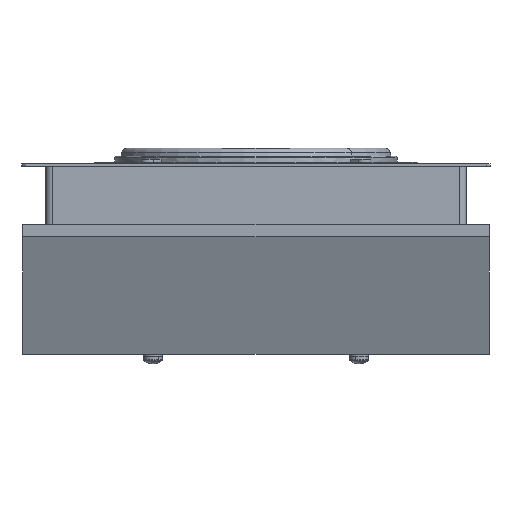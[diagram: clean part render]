
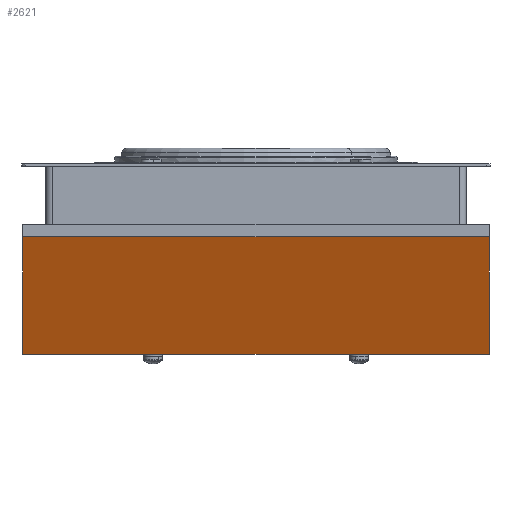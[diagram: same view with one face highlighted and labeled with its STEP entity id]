
A CAD part, front view. The second image highlights one B-rep face of the part: STEP entity #2621.
In plain terms, the highlighted planar face has unit normal (0, -0.92, -0.391) as drawn and (-0.921, 0, -0.391) by its records, which use the part's own axes.
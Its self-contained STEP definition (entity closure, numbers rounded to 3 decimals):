
#122 = FACE_OUTER_BOUND ( 'NONE', #3050, .T. ) ;
#455 = DIRECTION ( 'NONE',  ( 0.921, 0., 0.391 ) ) ;
#610 = CARTESIAN_POINT ( 'NONE',  ( -187.5, -147., -8. ) ) ;
#670 = VECTOR ( 'NONE', #1856, 1000. ) ;
#759 = VERTEX_POINT ( 'NONE', #1437 ) ;
#1019 = CARTESIAN_POINT ( 'NONE',  ( -156.089, 147., -82. ) ) ;
#1056 = VERTEX_POINT ( 'NONE', #1700 ) ;
#1061 = ORIENTED_EDGE ( 'NONE', *, *, #1921, .F. ) ;
#1333 = DIRECTION ( 'NONE',  ( 0., -1., 0. ) ) ;
#1367 = PLANE ( 'NONE',  #3970 ) ;
#1437 = CARTESIAN_POINT ( 'NONE',  ( -156.089, -147., -82. ) ) ;
#1571 = CARTESIAN_POINT ( 'NONE',  ( -187.5, 147., -8. ) ) ;
#1608 = LINE ( 'NONE', #1571, #670 ) ;
#1687 = CARTESIAN_POINT ( 'NONE',  ( -187.5, 147., -8. ) ) ;
#1696 = EDGE_CURVE ( 'NONE', #759, #3376, #3666, .T. ) ;
#1700 = CARTESIAN_POINT ( 'NONE',  ( -156.089, 147., -82. ) ) ;
#1856 = DIRECTION ( 'NONE',  ( -0.391, 0., 0.921 ) ) ;
#1921 = EDGE_CURVE ( 'NONE', #3530, #3376, #3198, .T. ) ;
#2039 = VECTOR ( 'NONE', #3776, 1000. ) ;
#2062 = CARTESIAN_POINT ( 'NONE',  ( -187.5, -147., -8. ) ) ;
#2066 = ORIENTED_EDGE ( 'NONE', *, *, #2486, .T. ) ;
#2114 = DIRECTION ( 'NONE',  ( -0.391, 0., 0.921 ) ) ;
#2286 = ORIENTED_EDGE ( 'NONE', *, *, #1696, .T. ) ;
#2418 = EDGE_CURVE ( 'NONE', #1056, #3530, #1608, .T. ) ;
#2486 = EDGE_CURVE ( 'NONE', #1056, #759, #2879, .T. ) ;
#2615 = DIRECTION ( 'NONE',  ( 0.391, 0., -0.921 ) ) ;
#2621 = ADVANCED_FACE ( 'NONE', ( #122 ), #1367, .F. ) ;
#2879 = LINE ( 'NONE', #1019, #2039 ) ;
#3050 = EDGE_LOOP ( 'NONE', ( #2286, #1061, #3830, #2066 ) ) ;
#3172 = VECTOR ( 'NONE', #2114, 1000. ) ;
#3198 = LINE ( 'NONE', #1687, #3645 ) ;
#3212 = CARTESIAN_POINT ( 'NONE',  ( -187.5, 147., -8. ) ) ;
#3376 = VERTEX_POINT ( 'NONE', #2062 ) ;
#3530 = VERTEX_POINT ( 'NONE', #3783 ) ;
#3645 = VECTOR ( 'NONE', #1333, 1000. ) ;
#3666 = LINE ( 'NONE', #610, #3172 ) ;
#3776 = DIRECTION ( 'NONE',  ( 0., -1., 0. ) ) ;
#3783 = CARTESIAN_POINT ( 'NONE',  ( -187.5, 147., -8. ) ) ;
#3830 = ORIENTED_EDGE ( 'NONE', *, *, #2418, .F. ) ;
#3970 = AXIS2_PLACEMENT_3D ( 'NONE', #3212, #455, #2615 ) ;
